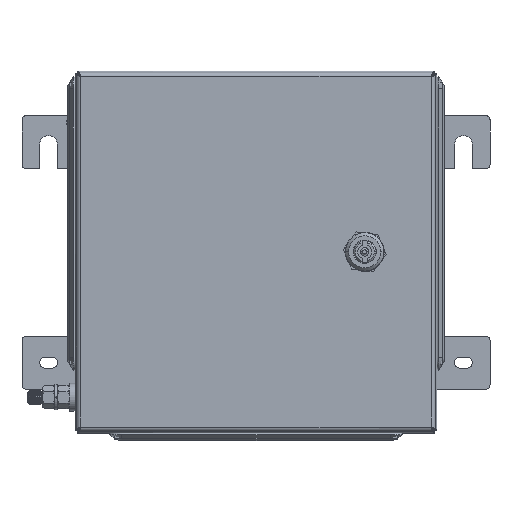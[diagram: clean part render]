
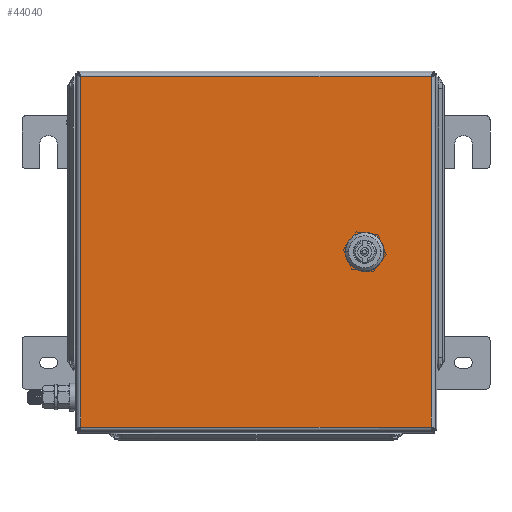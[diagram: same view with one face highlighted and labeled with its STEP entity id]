
A CAD part, top view. The second image highlights one B-rep face of the part: STEP entity #44040.
In plain terms, the highlighted planar face has unit normal (0, 0, 1).
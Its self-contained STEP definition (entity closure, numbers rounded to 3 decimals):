
#1072 = DIRECTION ( 'NONE',  ( 0., 0., 1. ) ) ;
#1120 = CARTESIAN_POINT ( 'NONE',  ( 83.238, 10.046, 0. ) ) ;
#3095 = FACE_OUTER_BOUND ( 'NONE', #11004, .T. ) ;
#3098 = VECTOR ( 'NONE', #60900, 1000. ) ;
#3171 = EDGE_CURVE ( 'NONE', #31442, #27313, #5788, .T. ) ;
#3318 = LINE ( 'NONE', #17075, #46548 ) ;
#4030 = VECTOR ( 'NONE', #11151, 1000. ) ;
#4583 = AXIS2_PLACEMENT_3D ( 'NONE', #34847, #1072, #40560 ) ;
#4881 = LINE ( 'NONE', #21532, #3098 ) ;
#5788 = LINE ( 'NONE', #67159, #4030 ) ;
#5908 = ORIENTED_EDGE ( 'NONE', *, *, #41221, .F. ) ;
#7242 = PLANE ( 'NONE',  #7567 ) ;
#7286 = VECTOR ( 'NONE', #53787, 1000. ) ;
#7567 = AXIS2_PLACEMENT_3D ( 'NONE', #12459, #46699, #12943 ) ;
#8917 = CARTESIAN_POINT ( 'NONE',  ( 73.099, -10.046, 0. ) ) ;
#9944 = LINE ( 'NONE', #53207, #23208 ) ;
#10230 = EDGE_CURVE ( 'NONE', #65071, #55653, #40135, .T. ) ;
#11004 = EDGE_LOOP ( 'NONE', ( #38285, #43830, #28403, #62545 ) ) ;
#11138 = VERTEX_POINT ( 'NONE', #15216 ) ;
#11151 = DIRECTION ( 'NONE',  ( 0., 1., 0. ) ) ;
#12459 = CARTESIAN_POINT ( 'NONE',  ( 0., 0., 0. ) ) ;
#12943 = DIRECTION ( 'NONE',  ( 1., 0., 0. ) ) ;
#13165 = CARTESIAN_POINT ( 'NONE',  ( 73.099, 10.046, 0. ) ) ;
#13193 = ORIENTED_EDGE ( 'NONE', *, *, #65633, .F. ) ;
#14923 = CIRCLE ( 'NONE', #68752, 11.252 ) ;
#15216 = CARTESIAN_POINT ( 'NONE',  ( -125.819, 125.819, 0. ) ) ;
#16238 = ORIENTED_EDGE ( 'NONE', *, *, #10230, .F. ) ;
#16583 = ORIENTED_EDGE ( 'NONE', *, *, #62650, .F. ) ;
#16712 = CARTESIAN_POINT ( 'NONE',  ( 73.099, -10.046, 0. ) ) ;
#17075 = CARTESIAN_POINT ( 'NONE',  ( 73.099, 10.046, 0. ) ) ;
#19467 = CARTESIAN_POINT ( 'NONE',  ( -125.819, -125.819, 0. ) ) ;
#19734 = DIRECTION ( 'NONE',  ( 0., -1., 0. ) ) ;
#21478 = EDGE_CURVE ( 'NONE', #40673, #57534, #27111, .T. ) ;
#21532 = CARTESIAN_POINT ( 'NONE',  ( -125.819, 127.327, 0. ) ) ;
#22211 = DIRECTION ( 'NONE',  ( -1., 0., 0. ) ) ;
#22788 = DIRECTION ( 'NONE',  ( 0., 0., 1. ) ) ;
#23208 = VECTOR ( 'NONE', #25166, 1000. ) ;
#25166 = DIRECTION ( 'NONE',  ( 1., 0., 0. ) ) ;
#26368 = CARTESIAN_POINT ( 'NONE',  ( 88.214, -5.069, 0. ) ) ;
#26557 = ORIENTED_EDGE ( 'NONE', *, *, #21478, .F. ) ;
#27111 = LINE ( 'NONE', #31050, #40308 ) ;
#27313 = VERTEX_POINT ( 'NONE', #58396 ) ;
#27504 = DIRECTION ( 'NONE',  ( 0., 0., 1. ) ) ;
#28364 = EDGE_LOOP ( 'NONE', ( #13193, #5908, #16238, #72930, #52626, #26557, #16583, #45981 ) ) ;
#28403 = ORIENTED_EDGE ( 'NONE', *, *, #3171, .T. ) ;
#28404 = DIRECTION ( 'NONE',  ( -1., 0., 0. ) ) ;
#28963 = EDGE_CURVE ( 'NONE', #11138, #55529, #4881, .T. ) ;
#31050 = CARTESIAN_POINT ( 'NONE',  ( 68.123, 5.069, 0. ) ) ;
#31072 = CARTESIAN_POINT ( 'NONE',  ( 78.169, 0., 0. ) ) ;
#31403 = EDGE_CURVE ( 'NONE', #55529, #31442, #9944, .T. ) ;
#31442 = VERTEX_POINT ( 'NONE', #47801 ) ;
#34847 = CARTESIAN_POINT ( 'NONE',  ( 78.169, 0., 0. ) ) ;
#34965 = CIRCLE ( 'NONE', #4583, 11.252 ) ;
#34999 = VERTEX_POINT ( 'NONE', #1120 ) ;
#36709 = DIRECTION ( 'NONE',  ( 1., 0., 0. ) ) ;
#37457 = CARTESIAN_POINT ( 'NONE',  ( 83.238, -10.046, 0. ) ) ;
#38285 = ORIENTED_EDGE ( 'NONE', *, *, #28963, .T. ) ;
#39106 = DIRECTION ( 'NONE',  ( 0., 1., 0. ) ) ;
#40135 = CIRCLE ( 'NONE', #61750, 11.252 ) ;
#40308 = VECTOR ( 'NONE', #19734, 1000. ) ;
#40560 = DIRECTION ( 'NONE',  ( 1., 0., 0. ) ) ;
#40673 = VERTEX_POINT ( 'NONE', #42883 ) ;
#40845 = LINE ( 'NONE', #61605, #69065 ) ;
#41221 = EDGE_CURVE ( 'NONE', #55653, #54425, #65178, .T. ) ;
#42013 = EDGE_CURVE ( 'NONE', #34999, #58897, #3318, .T. ) ;
#42883 = CARTESIAN_POINT ( 'NONE',  ( 68.123, 5.069, 0. ) ) ;
#43830 = ORIENTED_EDGE ( 'NONE', *, *, #31403, .T. ) ;
#44040 = ADVANCED_FACE ( 'NONE', ( #63091, #3095 ), #7242, .T. ) ;
#45385 = VERTEX_POINT ( 'NONE', #16712 ) ;
#45968 = EDGE_CURVE ( 'NONE', #57534, #45385, #49672, .T. ) ;
#45981 = ORIENTED_EDGE ( 'NONE', *, *, #42013, .F. ) ;
#46548 = VECTOR ( 'NONE', #28404, 1000. ) ;
#46699 = DIRECTION ( 'NONE',  ( 0., 0., 1. ) ) ;
#47801 = CARTESIAN_POINT ( 'NONE',  ( 125.819, -125.819, 0. ) ) ;
#48201 = EDGE_CURVE ( 'NONE', #27313, #11138, #40845, .T. ) ;
#49672 = CIRCLE ( 'NONE', #71021, 11.252 ) ;
#50152 = VECTOR ( 'NONE', #39106, 1000. ) ;
#52626 = ORIENTED_EDGE ( 'NONE', *, *, #45968, .F. ) ;
#53207 = CARTESIAN_POINT ( 'NONE',  ( -127.327, -125.819, 0. ) ) ;
#53787 = DIRECTION ( 'NONE',  ( 1., 0., 0. ) ) ;
#54045 = LINE ( 'NONE', #8917, #7286 ) ;
#54425 = VERTEX_POINT ( 'NONE', #54568 ) ;
#54568 = CARTESIAN_POINT ( 'NONE',  ( 88.214, 5.069, 0. ) ) ;
#55529 = VERTEX_POINT ( 'NONE', #19467 ) ;
#55653 = VERTEX_POINT ( 'NONE', #26368 ) ;
#56501 = CARTESIAN_POINT ( 'NONE',  ( 78.169, 0., 0. ) ) ;
#57534 = VERTEX_POINT ( 'NONE', #70868 ) ;
#58396 = CARTESIAN_POINT ( 'NONE',  ( 125.819, 125.819, 0. ) ) ;
#58897 = VERTEX_POINT ( 'NONE', #13165 ) ;
#59014 = EDGE_CURVE ( 'NONE', #45385, #65071, #54045, .T. ) ;
#60900 = DIRECTION ( 'NONE',  ( 0., -1., 0. ) ) ;
#61214 = CARTESIAN_POINT ( 'NONE',  ( 78.169, 0., 0. ) ) ;
#61605 = CARTESIAN_POINT ( 'NONE',  ( 127.327, 125.819, 0. ) ) ;
#61750 = AXIS2_PLACEMENT_3D ( 'NONE', #61214, #27504, #66924 ) ;
#62167 = DIRECTION ( 'NONE',  ( 1., 0., 0. ) ) ;
#62545 = ORIENTED_EDGE ( 'NONE', *, *, #48201, .T. ) ;
#62650 = EDGE_CURVE ( 'NONE', #58897, #40673, #14923, .T. ) ;
#63091 = FACE_BOUND ( 'NONE', #28364, .T. ) ;
#65071 = VERTEX_POINT ( 'NONE', #37457 ) ;
#65178 = LINE ( 'NONE', #72825, #50152 ) ;
#65633 = EDGE_CURVE ( 'NONE', #54425, #34999, #34965, .T. ) ;
#66924 = DIRECTION ( 'NONE',  ( 1., 0., 0. ) ) ;
#67159 = CARTESIAN_POINT ( 'NONE',  ( 125.819, -127.327, 0. ) ) ;
#68752 = AXIS2_PLACEMENT_3D ( 'NONE', #31072, #70518, #36709 ) ;
#69065 = VECTOR ( 'NONE', #22211, 1000. ) ;
#70518 = DIRECTION ( 'NONE',  ( 0., 0., 1. ) ) ;
#70868 = CARTESIAN_POINT ( 'NONE',  ( 68.123, -5.069, 0. ) ) ;
#71021 = AXIS2_PLACEMENT_3D ( 'NONE', #56501, #22788, #62167 ) ;
#72825 = CARTESIAN_POINT ( 'NONE',  ( 88.214, 5.069, 0. ) ) ;
#72930 = ORIENTED_EDGE ( 'NONE', *, *, #59014, .F. ) ;
